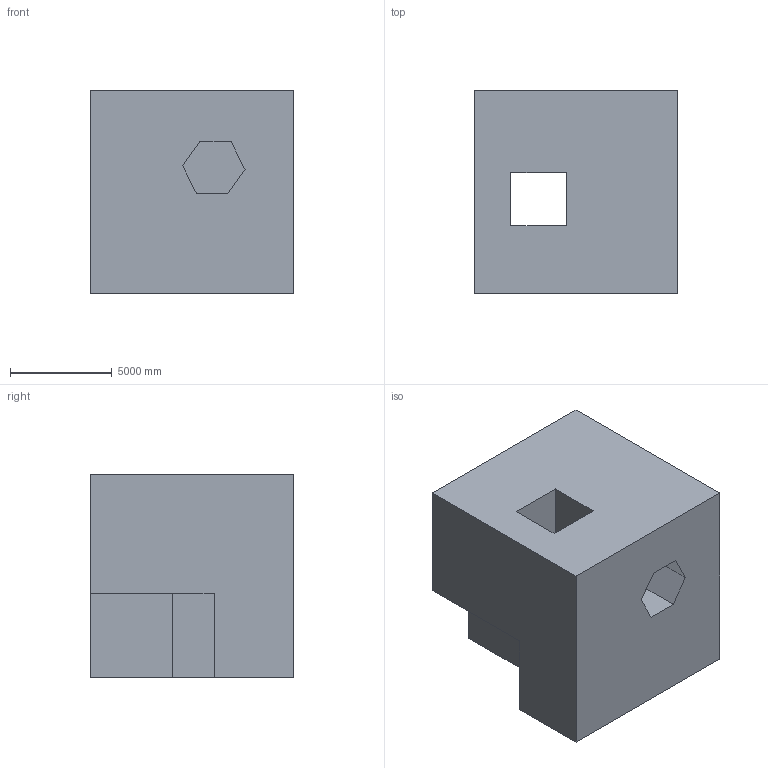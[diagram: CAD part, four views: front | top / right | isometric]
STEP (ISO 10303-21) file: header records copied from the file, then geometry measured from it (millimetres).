
FILE_DESCRIPTION (( 'STEP AP203' ), '1' );
FILE_NAME ('221.STEP', '2022-07-28T13:56:59', ( 'user' ), ( '' ), 'SwSTEP 2.0', 'SolidWorks 2021', '' );
FILE_SCHEMA (( 'CONFIG_CONTROL_DESIGN' ));
Length unit declared in the file: centimetre
Products named in the file (1): 221
Bounding box: 10000 x 10000 x 10000 mm (x, y, z)
Volume: 850702379954.6 mm3; surface area: 701132603.9 mm2
Topology: 1 solids, 1 shells, 20 faces, 54 edges, 36 vertices
Faces by surface type: plane 20
Entity records: 699 total; most frequent: CARTESIAN_POINT 111, ORIENTED_EDGE 108, DIRECTION 96, LINE 54, VECTOR 54, EDGE_CURVE 54, VERTEX_POINT 36, EDGE_LOOP 22
